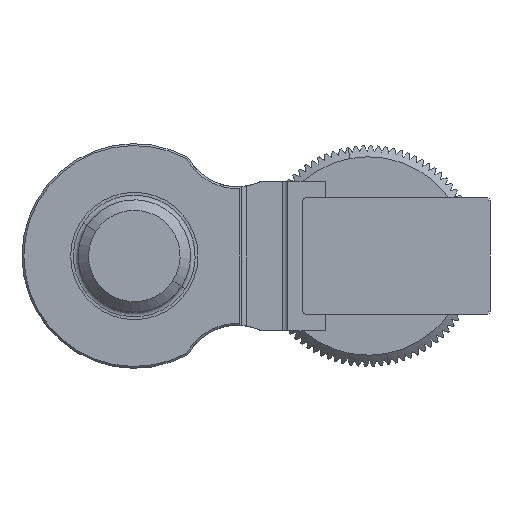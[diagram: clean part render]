
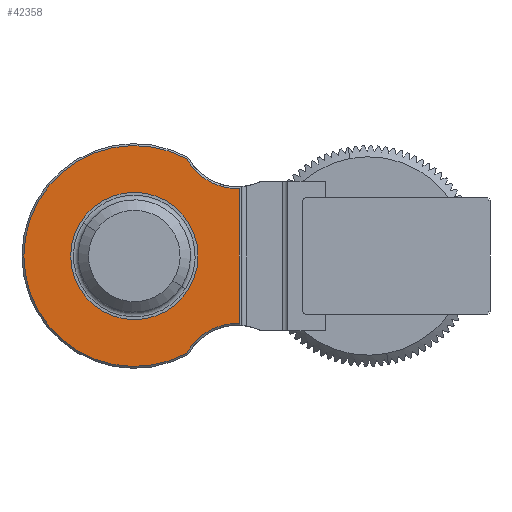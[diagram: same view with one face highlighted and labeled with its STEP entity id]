
A CAD part, left-side view. The second image highlights one B-rep face of the part: STEP entity #42358.
In plain terms, the highlighted planar face has unit normal (-1, 0, 0) as drawn and (1, 0, 0) by its records, which use the part's own axes.
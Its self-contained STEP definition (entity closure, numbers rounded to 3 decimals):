
#501 = EDGE_CURVE ( 'NONE', #13494, #35644, #47337, .T. ) ;
#1251 = EDGE_CURVE ( 'NONE', #15138, #20437, #5298, .T. ) ;
#1330 = ORIENTED_EDGE ( 'NONE', *, *, #501, .T. ) ;
#4239 = DIRECTION ( 'NONE',  ( 1., 0., 0. ) ) ;
#5186 = VERTEX_POINT ( 'NONE', #43671 ) ;
#5219 = CIRCLE ( 'NONE', #16463, 5.9 ) ;
#5298 = CIRCLE ( 'NONE', #19501, 3.4 ) ;
#6217 = ORIENTED_EDGE ( 'NONE', *, *, #16096, .T. ) ;
#6652 = ORIENTED_EDGE ( 'NONE', *, *, #39103, .T. ) ;
#9544 = CARTESIAN_POINT ( 'NONE',  ( 10., -3.606, 5.6 ) ) ;
#10893 = DIRECTION ( 'NONE',  ( 0., 0., -1. ) ) ;
#10958 = DIRECTION ( 'NONE',  ( 1., 0., 0. ) ) ;
#11453 = ORIENTED_EDGE ( 'NONE', *, *, #45882, .T. ) ;
#11618 = DIRECTION ( 'NONE',  ( 0., 0., -1. ) ) ;
#11941 = CARTESIAN_POINT ( 'NONE',  ( 10., 0., 0. ) ) ;
#13103 = CARTESIAN_POINT ( 'NONE',  ( 10., 3.602, 5.6 ) ) ;
#13494 = VERTEX_POINT ( 'NONE', #13103 ) ;
#15138 = VERTEX_POINT ( 'NONE', #28602 ) ;
#15198 = ORIENTED_EDGE ( 'NONE', *, *, #1251, .F. ) ;
#16096 = EDGE_CURVE ( 'NONE', #46369, #13494, #36513, .T. ) ;
#16463 = AXIS2_PLACEMENT_3D ( 'NONE', #26176, #4239, #11618 ) ;
#17414 = CARTESIAN_POINT ( 'NONE',  ( 10., -3.602, 5.6 ) ) ;
#17985 = DIRECTION ( 'NONE',  ( 0., 0., -1. ) ) ;
#19348 = AXIS2_PLACEMENT_3D ( 'NONE', #44116, #10958, #17985 ) ;
#19501 = AXIS2_PLACEMENT_3D ( 'NONE', #11941, #30653, #41548 ) ;
#20437 = VERTEX_POINT ( 'NONE', #40644 ) ;
#20637 = ORIENTED_EDGE ( 'NONE', *, *, #35150, .F. ) ;
#22913 = CARTESIAN_POINT ( 'NONE',  ( 10., -4., 10.2 ) ) ;
#23098 = CIRCLE ( 'NONE', #37767, 3.1 ) ;
#26176 = CARTESIAN_POINT ( 'NONE',  ( 10., 0., 0. ) ) ;
#26329 = DIRECTION ( 'NONE',  ( -1., 0., 0. ) ) ;
#27709 = VECTOR ( 'NONE', #46363, 1000. ) ;
#27984 = FACE_OUTER_BOUND ( 'NONE', #41082, .T. ) ;
#28517 = FACE_BOUND ( 'NONE', #46811, .T. ) ;
#28602 = CARTESIAN_POINT ( 'NONE',  ( 10., 0., -3.4 ) ) ;
#30653 = DIRECTION ( 'NONE',  ( 1., 0., 0. ) ) ;
#35150 = EDGE_CURVE ( 'NONE', #20437, #15138, #46370, .T. ) ;
#35644 = VERTEX_POINT ( 'NONE', #17414 ) ;
#36513 = CIRCLE ( 'NONE', #44385, 3.1 ) ;
#36572 = CARTESIAN_POINT ( 'NONE',  ( 10., 6.7, 5.5 ) ) ;
#37450 = PLANE ( 'NONE',  #44581 ) ;
#37767 = AXIS2_PLACEMENT_3D ( 'NONE', #44936, #26329, #44307 ) ;
#38067 = CARTESIAN_POINT ( 'NONE',  ( 10., 5.2, 2.787 ) ) ;
#39103 = EDGE_CURVE ( 'NONE', #35644, #5186, #23098, .T. ) ;
#40644 = CARTESIAN_POINT ( 'NONE',  ( 10., 0., 3.4 ) ) ;
#41082 = EDGE_LOOP ( 'NONE', ( #6217, #1330, #6652, #11453 ) ) ;
#41206 = DIRECTION ( 'NONE',  ( 1., 0., 0. ) ) ;
#41548 = DIRECTION ( 'NONE',  ( 0., 0., -1. ) ) ;
#42358 = ADVANCED_FACE ( 'NONE', ( #28517, #27984 ), #37450, .T. ) ;
#43671 = CARTESIAN_POINT ( 'NONE',  ( 10., -5.2, 2.787 ) ) ;
#43905 = DIRECTION ( 'NONE',  ( -1., 0., 0. ) ) ;
#44116 = CARTESIAN_POINT ( 'NONE',  ( 10., 0., 0. ) ) ;
#44307 = DIRECTION ( 'NONE',  ( 0., 0., -1. ) ) ;
#44385 = AXIS2_PLACEMENT_3D ( 'NONE', #36572, #43905, #10893 ) ;
#44581 = AXIS2_PLACEMENT_3D ( 'NONE', #22913, #41206, #44743 ) ;
#44743 = DIRECTION ( 'NONE',  ( 0., 0., -1. ) ) ;
#44936 = CARTESIAN_POINT ( 'NONE',  ( 10., -6.7, 5.5 ) ) ;
#45882 = EDGE_CURVE ( 'NONE', #5186, #46369, #5219, .T. ) ;
#46363 = DIRECTION ( 'NONE',  ( 0., -1., 0. ) ) ;
#46369 = VERTEX_POINT ( 'NONE', #38067 ) ;
#46370 = CIRCLE ( 'NONE', #19348, 3.4 ) ;
#46811 = EDGE_LOOP ( 'NONE', ( #20637, #15198 ) ) ;
#47337 = LINE ( 'NONE', #9544, #27709 ) ;
